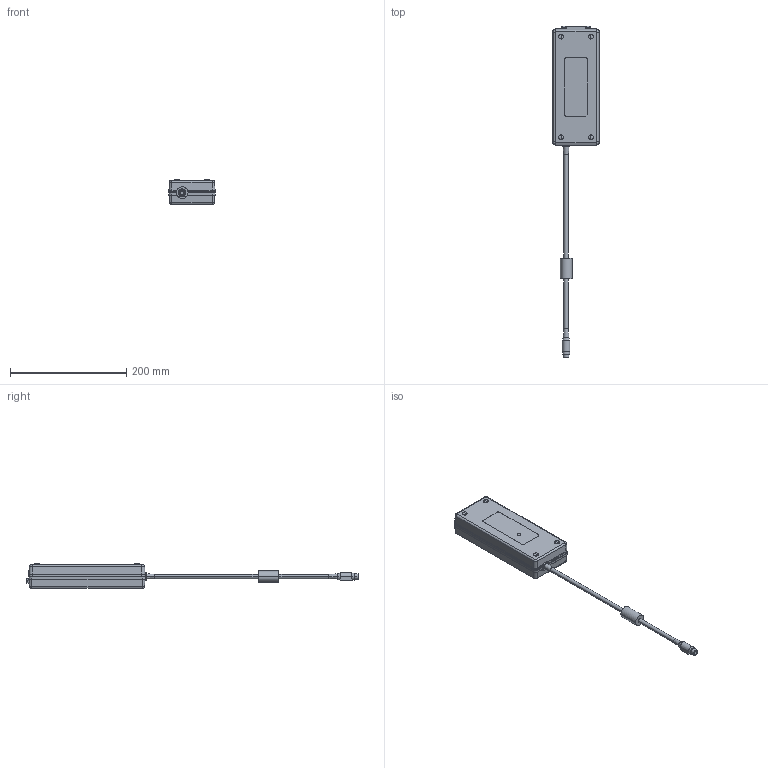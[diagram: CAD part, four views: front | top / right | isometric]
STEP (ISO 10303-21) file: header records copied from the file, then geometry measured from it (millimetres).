
FILE_DESCRIPTION (( 'STEP AP203' ), '1' );
FILE_NAME ('ASSY AHM180 W CASING C1.STEP', '2012-01-12T08:01:06', ( 'XP Power' ), ( 'Hewlett-Packard Company' ), 'SwSTEP 2.0', 'SolidWorks 2011', '' );
FILE_SCHEMA (( 'CONFIG_CONTROL_DESIGN' ));
Length unit declared in the file: millimetre
Products named in the file (11): ASSY AHM180 W CASING C1; Part92^ASSY AHM180 W CASING C1_1; CONN C1_1; BOT COVER AHM180(10009671); Cross Recessed Countersunk Head Screw_JIS_JIS 1111 Cross recessed countersunk head screw - M3 x 20 -; LED LIGHT PIPE(10009913)_3; TOP COVER AHM180(10009670); RUBBER FOOTING 6MM(10010301)_1; ASSY PCB AHM180_1; UL2464 COMMON PLUG WITH MINI-DIN_3; RUBBER FOOTING 8MM(10010299)_1
Assembly tree (21 placements, depth 3):
  ASSY AHM180 W CASING C1
    Part92^ASSY AHM180 W CASING C1_1
    RUBBER FOOTING 8MM(10010299)_1  x4
    RUBBER FOOTING 6MM(10010301)_1  x5
    Cross Recessed Countersunk Head Screw_JIS_JIS 1111 Cross recessed countersunk head screw - M3 x 20 -  x5
    BOT COVER AHM180(10009671)
    TOP COVER AHM180(10009670)
    CONN C1_1
    LED LIGHT PIPE(10009913)_3
    ASSY PCB AHM180_1
      UL2464 COMMON PLUG WITH MINI-DIN_3
Bounding box: 80 x 571.17 x 42.6 mm (x, y, z)
Volume: 162100.6 mm3; surface area: 139699.6 mm2
Topology: 20 solids, 20 shells, 1282 faces, 3204 edges, 1990 vertices
Faces by surface type: plane 546, cylinder 327, bspline 246, cone 163
Entity records: 40343 total; most frequent: CARTESIAN_POINT 14216, ORIENTED_EDGE 5468, DIRECTION 4717, EDGE_CURVE 2734, VERTEX_POINT 1731, AXIS2_PLACEMENT_3D 1661, VECTOR 1395, LINE 1395
